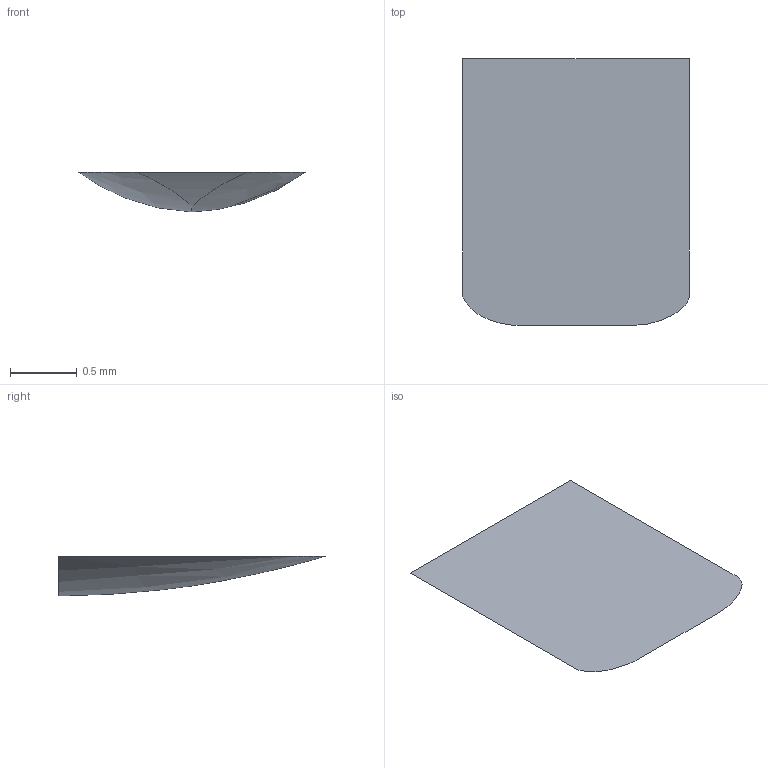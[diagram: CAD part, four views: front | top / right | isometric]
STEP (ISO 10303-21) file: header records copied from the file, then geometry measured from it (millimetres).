
FILE_DESCRIPTION(/* description */ ('STEP AP242 Edition 2','CAx-IF Rec.Pracs.---Representation and Presentation of Product Manufacturing Information (PMI)---4.0---2014-10-13','CAx-IF Rec.Pracs.---3D Tessellated Geometry---0.4---2014-09-14','2;1','CAx-IF Rec.Pracs.---User Defined Attributes---1.5---2016-08-15'),/* implementation_level */ '2;1');
FILE_NAME(/* name */ 'Drone Layout - Surface 78',/* time_stamp */ '2026-10-04T22:23:00Z',/* author */ (''),/* organization */ (''),/* preprocessor_version */ 'ST-DEVELOPER v20',/* originating_system */ 'ONSHAPE BY PTC INC, 1.221',/* authorisation */ ' ');
FILE_SCHEMA (('AP242_MANAGED_MODEL_BASED_3D_ENGINEERING_MIM_LF { 1 0 10303 442 3 1 4 }'));
Length unit declared in the file: metre
Products named in the file (1): USB:1__Pin (1) (1)
Bounding box: 1.7 x 2 x 0.3 mm (x, y, z)
Volume: 0.5 mm3; surface area: 7.2 mm2
Topology: 1 solids, 1 shells, 5 faces, 11 edges, 8 vertices
Faces by surface type: bspline 2, plane 2, cylinder 1
Entity records: 213 total; most frequent: CARTESIAN_POINT 106, ORIENTED_EDGE 22, EDGE_CURVE 11, DIRECTION 11, VERTEX_POINT 8, B_SPLINE_CURVE_WITH_KNOTS 8, EDGE_LOOP 5, FACE_BOUND 5
